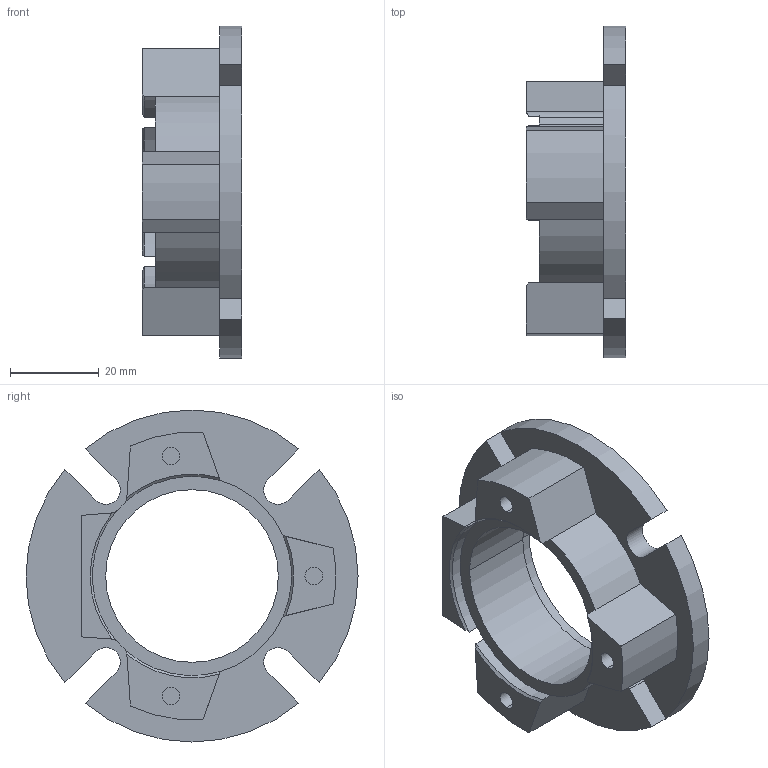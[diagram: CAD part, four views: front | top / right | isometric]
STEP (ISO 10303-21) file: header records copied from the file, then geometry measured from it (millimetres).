
FILE_DESCRIPTION((''),'2;1');
FILE_NAME('FLAOUTFB25','2013-09-02T',('atrevisan'),(''),'PRO/ENGINEER BY PARAMETRIC TECHNOLOGY CORPORATION, 2011490','PRO/ENGINEER BY PARAMETRIC TECHNOLOGY CORPORATION, 2011490','');
FILE_SCHEMA(('CONFIG_CONTROL_DESIGN'));
Length unit declared in the file: millimetre
Products named in the file (1): FLAOUTFB25
Bounding box: 22.5 x 75 x 75 mm (x, y, z)
Volume: 31345.5 mm3; surface area: 13841.9 mm2
Topology: 1 solids, 1 shells, 65 faces, 170 edges, 112 vertices
Faces by surface type: cylinder 31, plane 30, cone 4
Entity records: 2086 total; most frequent: CARTESIAN_POINT 391, DIRECTION 358, ORIENTED_EDGE 340, EDGE_CURVE 170, AXIS2_PLACEMENT_3D 133, VERTEX_POINT 112, VECTOR 92, LINE 92
